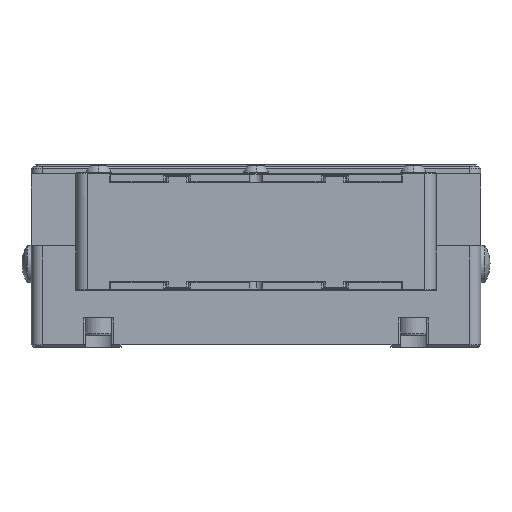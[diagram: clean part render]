
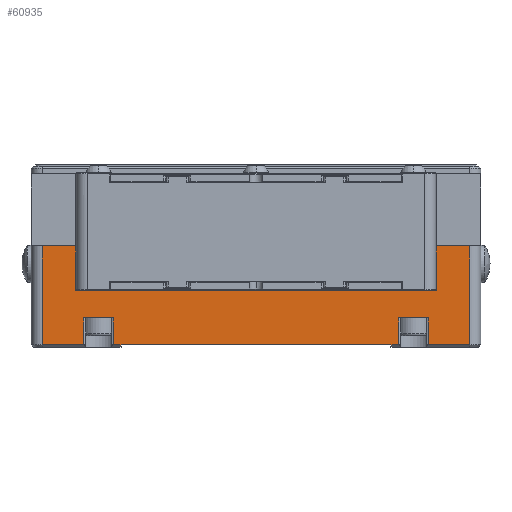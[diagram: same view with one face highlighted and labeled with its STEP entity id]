
A CAD part, front view. The second image highlights one B-rep face of the part: STEP entity #60935.
In plain terms, the highlighted planar face has unit normal (0, -1, 0).
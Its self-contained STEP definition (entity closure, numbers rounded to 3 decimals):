
#499 = CARTESIAN_POINT ( 'NONE',  ( -31.709, -70., -7.5 ) ) ;
#579 = LINE ( 'NONE', #69076, #79262 ) ;
#1211 = EDGE_CURVE ( 'NONE', #10280, #54809, #88235, .T. ) ;
#2067 = DIRECTION ( 'NONE',  ( 0., 0., -1. ) ) ;
#2760 = CARTESIAN_POINT ( 'NONE',  ( 47.5, -70., 8.5 ) ) ;
#2960 = DIRECTION ( 'NONE',  ( 0., 0., -1. ) ) ;
#3302 = EDGE_CURVE ( 'NONE', #53766, #24045, #33384, .T. ) ;
#3694 = VECTOR ( 'NONE', #25918, 1000. ) ;
#3880 = VECTOR ( 'NONE', #42964, 1000. ) ;
#3883 = ORIENTED_EDGE ( 'NONE', *, *, #49178, .T. ) ;
#4227 = VERTEX_POINT ( 'NONE', #86763 ) ;
#5541 = VERTEX_POINT ( 'NONE', #88665 ) ;
#5635 = CARTESIAN_POINT ( 'NONE',  ( -50., -70., -7.5 ) ) ;
#5897 = LINE ( 'NONE', #19828, #44055 ) ;
#8768 = LINE ( 'NONE', #36236, #43167 ) ;
#10153 = FACE_OUTER_BOUND ( 'NONE', #51769, .T. ) ;
#10280 = VERTEX_POINT ( 'NONE', #76373 ) ;
#11672 = LINE ( 'NONE', #44990, #42625 ) ;
#11739 = VERTEX_POINT ( 'NONE', #52904 ) ;
#12933 = VERTEX_POINT ( 'NONE', #22680 ) ;
#13662 = CARTESIAN_POINT ( 'NONE',  ( -31.709, -70., -13.5 ) ) ;
#15633 = CARTESIAN_POINT ( 'NONE',  ( 0., -70., -13.5 ) ) ;
#15953 = LINE ( 'NONE', #78123, #48660 ) ;
#16634 = CARTESIAN_POINT ( 'NONE',  ( 40.05, -70., -1.5 ) ) ;
#18042 = DIRECTION ( 'NONE',  ( -1., 0., 0. ) ) ;
#18069 = DIRECTION ( 'NONE',  ( 1., 0., 0. ) ) ;
#18891 = CARTESIAN_POINT ( 'NONE',  ( -47.5, -70., 8.5 ) ) ;
#19828 = CARTESIAN_POINT ( 'NONE',  ( -50., -70., -1.5 ) ) ;
#19914 = DIRECTION ( 'NONE',  ( 1., 0., 0. ) ) ;
#20314 = ORIENTED_EDGE ( 'NONE', *, *, #39877, .T. ) ;
#20572 = CARTESIAN_POINT ( 'NONE',  ( -40.05, -70., 8.5 ) ) ;
#21475 = CARTESIAN_POINT ( 'NONE',  ( 40.05, -70., 0. ) ) ;
#21720 = VECTOR ( 'NONE', #2067, 1000. ) ;
#21870 = LINE ( 'NONE', #35401, #32369 ) ;
#21996 = ORIENTED_EDGE ( 'NONE', *, *, #24364, .T. ) ;
#22680 = CARTESIAN_POINT ( 'NONE',  ( 38.291, -70., -7.5 ) ) ;
#23342 = ORIENTED_EDGE ( 'NONE', *, *, #3302, .T. ) ;
#23528 = ORIENTED_EDGE ( 'NONE', *, *, #43948, .T. ) ;
#24045 = VERTEX_POINT ( 'NONE', #32303 ) ;
#24364 = EDGE_CURVE ( 'NONE', #50709, #72882, #62919, .T. ) ;
#25918 = DIRECTION ( 'NONE',  ( 1., 0., 0. ) ) ;
#27081 = CARTESIAN_POINT ( 'NONE',  ( -38.291, -70., 0. ) ) ;
#27722 = CARTESIAN_POINT ( 'NONE',  ( 38.291, -70., -13.5 ) ) ;
#28210 = DIRECTION ( 'NONE',  ( 0., 0., 1. ) ) ;
#28259 = LINE ( 'NONE', #21475, #38832 ) ;
#28461 = EDGE_CURVE ( 'NONE', #88289, #78582, #21870, .T. ) ;
#28960 = CARTESIAN_POINT ( 'NONE',  ( 31.709, -70., -7.5 ) ) ;
#29895 = LINE ( 'NONE', #57368, #3880 ) ;
#32303 = CARTESIAN_POINT ( 'NONE',  ( -38.291, -70., -7.5 ) ) ;
#32369 = VECTOR ( 'NONE', #28210, 1000. ) ;
#33253 = CARTESIAN_POINT ( 'NONE',  ( 31.709, -70., 0. ) ) ;
#33384 = LINE ( 'NONE', #27081, #47741 ) ;
#35401 = CARTESIAN_POINT ( 'NONE',  ( 47.5, -70., 0. ) ) ;
#36236 = CARTESIAN_POINT ( 'NONE',  ( -47.5, -70., 0. ) ) ;
#37205 = EDGE_CURVE ( 'NONE', #43248, #48502, #579, .T. ) ;
#37602 = DIRECTION ( 'NONE',  ( -1., 0., 0. ) ) ;
#37931 = DIRECTION ( 'NONE',  ( 0., 0., -1. ) ) ;
#38035 = LINE ( 'NONE', #72302, #46980 ) ;
#38832 = VECTOR ( 'NONE', #48966, 1000. ) ;
#39652 = VERTEX_POINT ( 'NONE', #54827 ) ;
#39852 = LINE ( 'NONE', #5635, #3694 ) ;
#39877 = EDGE_CURVE ( 'NONE', #73369, #70353, #28259, .T. ) ;
#40238 = EDGE_CURVE ( 'NONE', #48502, #39652, #8768, .T. ) ;
#40646 = CARTESIAN_POINT ( 'NONE',  ( -50., -70., -13.5 ) ) ;
#41264 = VERTEX_POINT ( 'NONE', #27722 ) ;
#42625 = VECTOR ( 'NONE', #72509, 1000. ) ;
#42651 = LINE ( 'NONE', #15633, #42844 ) ;
#42844 = VECTOR ( 'NONE', #77378, 1000. ) ;
#42964 = DIRECTION ( 'NONE',  ( 0., 0., 1. ) ) ;
#43167 = VECTOR ( 'NONE', #63287, 1000. ) ;
#43248 = VERTEX_POINT ( 'NONE', #20572 ) ;
#43948 = EDGE_CURVE ( 'NONE', #78582, #73369, #80687, .T. ) ;
#44055 = VECTOR ( 'NONE', #18042, 1000. ) ;
#44990 = CARTESIAN_POINT ( 'NONE',  ( 0., -70., -13.5 ) ) ;
#46956 = ORIENTED_EDGE ( 'NONE', *, *, #37205, .T. ) ;
#46980 = VECTOR ( 'NONE', #37602, 1000. ) ;
#47741 = VECTOR ( 'NONE', #68513, 1000. ) ;
#48502 = VERTEX_POINT ( 'NONE', #18891 ) ;
#48660 = VECTOR ( 'NONE', #64144, 1000. ) ;
#48966 = DIRECTION ( 'NONE',  ( 0., 0., -1. ) ) ;
#49178 = EDGE_CURVE ( 'NONE', #24045, #50709, #39852, .T. ) ;
#49576 = ORIENTED_EDGE ( 'NONE', *, *, #72667, .F. ) ;
#50709 = VERTEX_POINT ( 'NONE', #499 ) ;
#50780 = VECTOR ( 'NONE', #59497, 1000. ) ;
#51310 = CARTESIAN_POINT ( 'NONE',  ( -38.291, -70., -13.5 ) ) ;
#51332 = VECTOR ( 'NONE', #19914, 1000. ) ;
#51672 = ORIENTED_EDGE ( 'NONE', *, *, #78465, .T. ) ;
#51769 = EDGE_LOOP ( 'NONE', ( #58211, #87075, #51672, #65709, #23528, #20314, #65160, #54365, #46956, #66360, #78533, #23342, #3883, #21996, #62871, #67979, #49576, #53419 ) ) ;
#51843 = CARTESIAN_POINT ( 'NONE',  ( -50., -70., 8.5 ) ) ;
#52904 = CARTESIAN_POINT ( 'NONE',  ( 30., -70., -13.5 ) ) ;
#53159 = EDGE_CURVE ( 'NONE', #4227, #43248, #29895, .T. ) ;
#53419 = ORIENTED_EDGE ( 'NONE', *, *, #1211, .T. ) ;
#53766 = VERTEX_POINT ( 'NONE', #51310 ) ;
#53872 = CARTESIAN_POINT ( 'NONE',  ( 40.05, -70., 8.5 ) ) ;
#54365 = ORIENTED_EDGE ( 'NONE', *, *, #53159, .T. ) ;
#54534 = AXIS2_PLACEMENT_3D ( 'NONE', #65119, #77332, #2960 ) ;
#54809 = VERTEX_POINT ( 'NONE', #28960 ) ;
#54827 = CARTESIAN_POINT ( 'NONE',  ( -47.5, -70., -13.5 ) ) ;
#55970 = DIRECTION ( 'NONE',  ( -1., 0., 0. ) ) ;
#56086 = EDGE_CURVE ( 'NONE', #12933, #41264, #79835, .T. ) ;
#57368 = CARTESIAN_POINT ( 'NONE',  ( -40.05, -70., 0. ) ) ;
#58211 = ORIENTED_EDGE ( 'NONE', *, *, #73048, .T. ) ;
#59497 = DIRECTION ( 'NONE',  ( -1., 0., 0. ) ) ;
#60740 = DIRECTION ( 'NONE',  ( 0., 0., 1. ) ) ;
#60935 = ADVANCED_FACE ( 'NONE', ( #10153 ), #63786, .T. ) ;
#62871 = ORIENTED_EDGE ( 'NONE', *, *, #79324, .F. ) ;
#62919 = LINE ( 'NONE', #70135, #21720 ) ;
#63287 = DIRECTION ( 'NONE',  ( 0., 0., -1. ) ) ;
#63786 = PLANE ( 'NONE',  #54534 ) ;
#64144 = DIRECTION ( 'NONE',  ( 1., 0., 0. ) ) ;
#65119 = CARTESIAN_POINT ( 'NONE',  ( -50., -70., 0. ) ) ;
#65160 = ORIENTED_EDGE ( 'NONE', *, *, #70069, .T. ) ;
#65709 = ORIENTED_EDGE ( 'NONE', *, *, #28461, .T. ) ;
#66360 = ORIENTED_EDGE ( 'NONE', *, *, #40238, .T. ) ;
#67979 = ORIENTED_EDGE ( 'NONE', *, *, #71954, .F. ) ;
#68513 = DIRECTION ( 'NONE',  ( 0., 0., 1. ) ) ;
#69076 = CARTESIAN_POINT ( 'NONE',  ( -50., -70., 8.5 ) ) ;
#70069 = EDGE_CURVE ( 'NONE', #70353, #4227, #5897, .T. ) ;
#70135 = CARTESIAN_POINT ( 'NONE',  ( -31.709, -70., 0. ) ) ;
#70353 = VERTEX_POINT ( 'NONE', #16634 ) ;
#71738 = CARTESIAN_POINT ( 'NONE',  ( 47.5, -70., -13.5 ) ) ;
#71954 = EDGE_CURVE ( 'NONE', #11739, #5541, #11672, .T. ) ;
#72302 = CARTESIAN_POINT ( 'NONE',  ( 0., -70., -13.5 ) ) ;
#72509 = DIRECTION ( 'NONE',  ( -1., 0., 0. ) ) ;
#72667 = EDGE_CURVE ( 'NONE', #10280, #11739, #38035, .T. ) ;
#72882 = VERTEX_POINT ( 'NONE', #13662 ) ;
#73048 = EDGE_CURVE ( 'NONE', #54809, #12933, #73532, .T. ) ;
#73073 = CARTESIAN_POINT ( 'NONE',  ( -50., -70., -7.5 ) ) ;
#73369 = VERTEX_POINT ( 'NONE', #53872 ) ;
#73532 = LINE ( 'NONE', #73073, #87416 ) ;
#76373 = CARTESIAN_POINT ( 'NONE',  ( 31.709, -70., -13.5 ) ) ;
#76382 = EDGE_CURVE ( 'NONE', #39652, #53766, #15953, .T. ) ;
#77332 = DIRECTION ( 'NONE',  ( 0., -1., 0. ) ) ;
#77378 = DIRECTION ( 'NONE',  ( -1., 0., 0. ) ) ;
#78123 = CARTESIAN_POINT ( 'NONE',  ( -50., -70., -13.5 ) ) ;
#78465 = EDGE_CURVE ( 'NONE', #41264, #88289, #83009, .T. ) ;
#78518 = CARTESIAN_POINT ( 'NONE',  ( 38.291, -70., 0. ) ) ;
#78533 = ORIENTED_EDGE ( 'NONE', *, *, #76382, .T. ) ;
#78582 = VERTEX_POINT ( 'NONE', #2760 ) ;
#79262 = VECTOR ( 'NONE', #55970, 1000. ) ;
#79324 = EDGE_CURVE ( 'NONE', #5541, #72882, #42651, .T. ) ;
#79835 = LINE ( 'NONE', #78518, #81606 ) ;
#80687 = LINE ( 'NONE', #51843, #50780 ) ;
#81606 = VECTOR ( 'NONE', #37931, 1000. ) ;
#83009 = LINE ( 'NONE', #40646, #51332 ) ;
#84900 = VECTOR ( 'NONE', #60740, 1000. ) ;
#86763 = CARTESIAN_POINT ( 'NONE',  ( -40.05, -70., -1.5 ) ) ;
#87075 = ORIENTED_EDGE ( 'NONE', *, *, #56086, .T. ) ;
#87416 = VECTOR ( 'NONE', #18069, 1000. ) ;
#88235 = LINE ( 'NONE', #33253, #84900 ) ;
#88289 = VERTEX_POINT ( 'NONE', #71738 ) ;
#88665 = CARTESIAN_POINT ( 'NONE',  ( -30., -70., -13.5 ) ) ;
